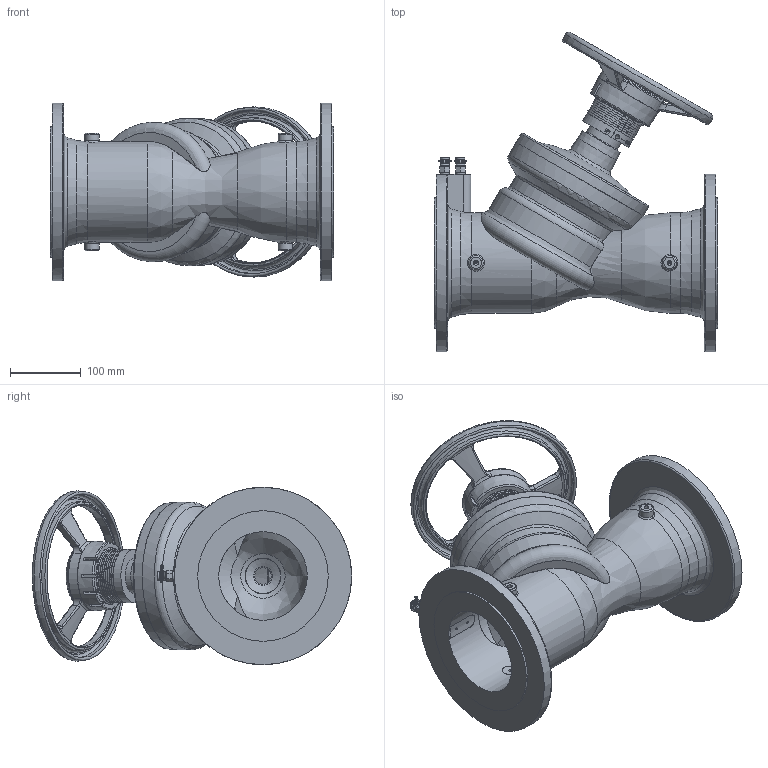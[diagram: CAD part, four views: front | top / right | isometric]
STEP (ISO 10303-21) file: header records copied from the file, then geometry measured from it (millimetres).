
FILE_DESCRIPTION((''),'2;1');
FILE_NAME('P:\Fastrack\53972_CRANE 3D\DM921-941\WORKSPACE\DM921-941\DM941_DN125\DM941_DN125.stp','2011-02-28T09:44:26',('btaylor'),(''),'Autodesk Inventor 2008','Autodesk Inventor 2008','');
FILE_SCHEMA(('AUTOMOTIVE_DESIGN { 1 0 10303 214 1 1 1 1 }'));
Length unit declared in the file: millimetre
Products named in the file (1): DM941_DN125
Bounding box: 400 x 450.07 x 250 mm (x, y, z)
Volume: 191981.6 mm3; surface area: 701467.4 mm2
Topology: 1 solids, 2 shells, 909 faces, 2330 edges, 1486 vertices
Faces by surface type: plane 364, bspline 301, cylinder 151, cone 53, torus 40
Full cylindrical faces by diameter (mm): 6 x2, 7.4 x2, 11 x2, 12.7 x2, 13.7 x2, 20 x6, 21.3 x1, 24 x1, 30 x1, 46 x1, 50 x2, 61 x1, 68 x1, 69 x1, 72 x1, 75 x1, 80 x1, 125 x2, 142 x1, 184 x2, 250 x1
Entity records: 79382 total; most frequent: CARTESIAN_POINT 59125, ORIENTED_EDGE 4330, DIRECTION 3163, EDGE_CURVE 2165, VERTEX_POINT 1437, AXIS2_PLACEMENT_3D 1156, EDGE_LOOP 1108, STYLED_ITEM 910
